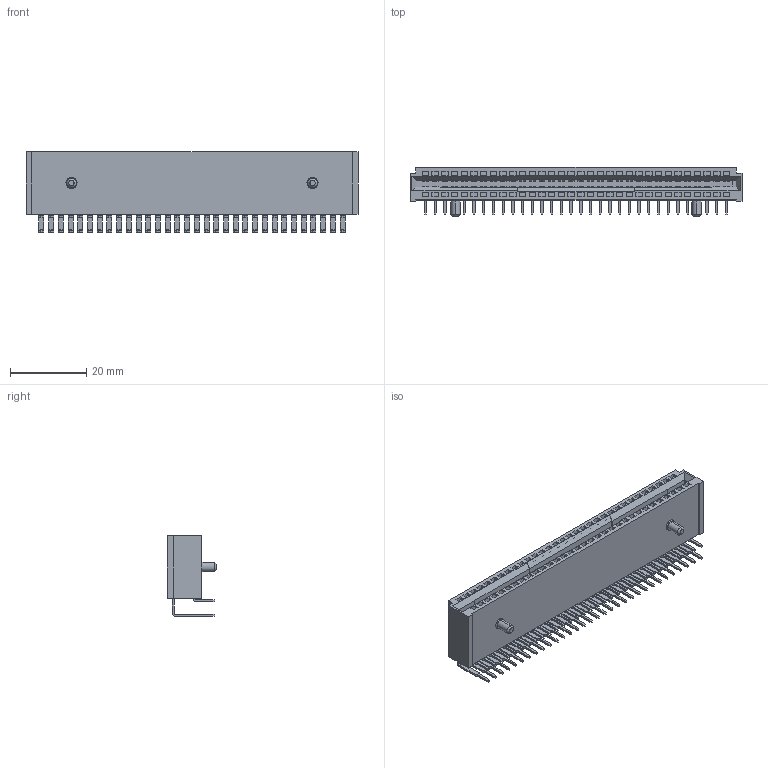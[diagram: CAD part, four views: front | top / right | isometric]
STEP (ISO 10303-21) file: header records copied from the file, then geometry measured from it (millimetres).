
FILE_DESCRIPTION (( 'STEP AP214' ), '1' );
FILE_NAME ('9393-F41P64P11ACB30DA.STEP', '2023-09-15T11:05:38', ( '' ), ( '' ), 'SwSTEP 2.0', 'SolidWorks 2011', '' );
FILE_SCHEMA (( 'AUTOMOTIVE_DESIGN' ));
Length unit declared in the file: millimetre
Products named in the file (1): 9393-F41P64P11ACB30DA
Bounding box: 86.82 x 12.83 x 21.11 mm (x, y, z)
Volume: 10566.2 mm3; surface area: 8927.9 mm2
Topology: 1 solids, 31 shells, 2576 faces, 6241 edges, 3986 vertices
Faces by surface type: plane 1894, cylinder 674, torus 4, cone 4
Entity records: 79010 total; most frequent: CARTESIAN_POINT 12804, DIRECTION 12755, ORIENTED_EDGE 12482, EDGE_CURVE 6241, VECTOR 4881, LINE 4881, VERTEX_POINT 3986, AXIS2_PLACEMENT_3D 3937
